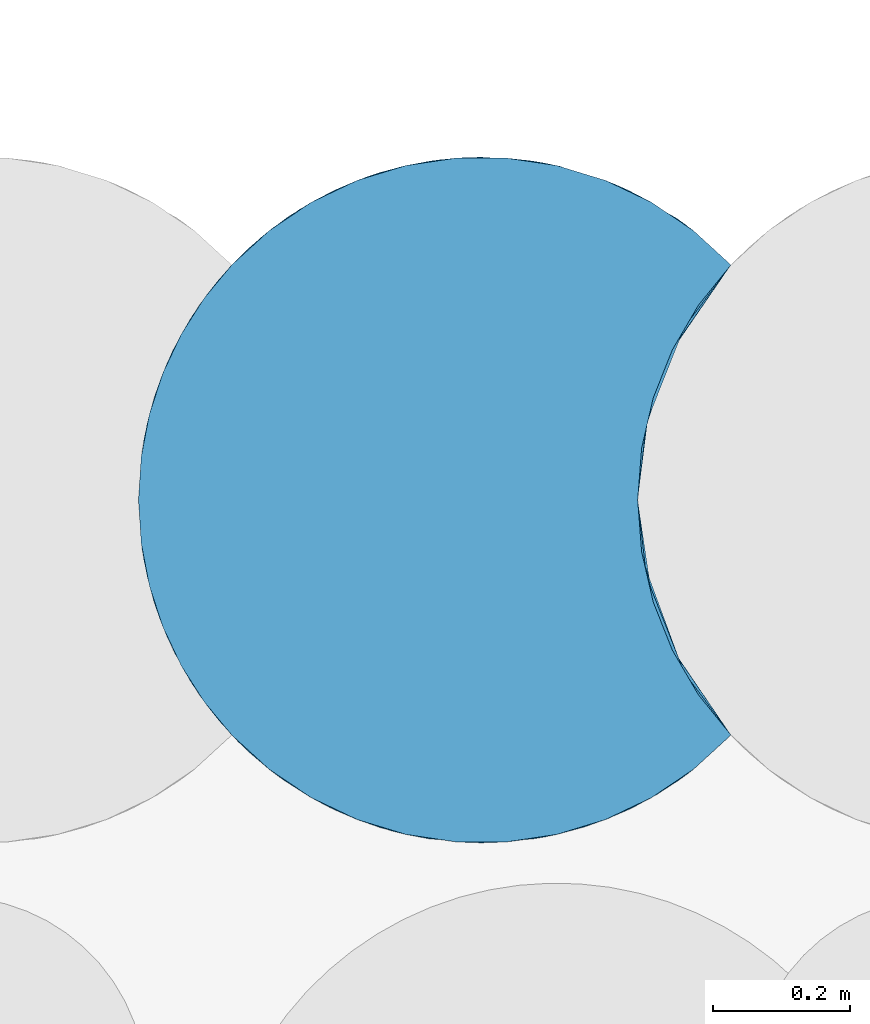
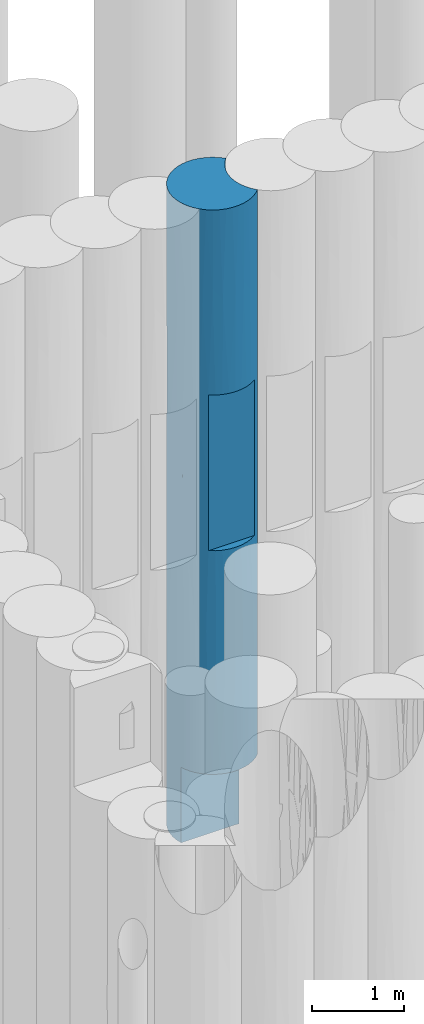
# One storey, part 64 of 104: 1 pile.
"""IFC2X3 building model written with IfcOpenShell, lengths in millimetres."""

from ifc_helpers import new_model, entity, si_unit, converted_unit, derived_unit, direction, frame, origin, place, context, subcontext, project, spatial, faceted_brep, source, transform, mapped, material, element, save


model = new_model("IFC2X3")

# Units and contexts
model_context = context("Model", 3, precision=0.01, world=origin(), true_north=direction((6.12303176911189e-17, 1.0)))
body_context = subcontext(model_context, "Body", "Model", "MODEL_VIEW")
ifc_project = project(units=[si_unit("LENGTHUNIT", "METRE", prefix="MILLI"), si_unit("AREAUNIT", "SQUARE_METRE", prefix="MILLI"), si_unit("VOLUMEUNIT", "CUBIC_METRE"), converted_unit("PLANEANGLEUNIT", "DEGREE", entity("IfcRatioMeasure", 0.0174532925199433), si_unit("PLANEANGLEUNIT", "RADIAN"), dimensions=[0, 0, 0, 0, 0, 0, 0]), si_unit("MASSUNIT", "GRAM", prefix="KILO"), derived_unit("MASSDENSITYUNIT", [(si_unit("MASSUNIT", "GRAM", prefix="KILO"), 1), (si_unit("LENGTHUNIT", "METRE"), -3)]), derived_unit("MOMENTOFINERTIAUNIT", [(si_unit("LENGTHUNIT", "METRE"), 4)]), si_unit("TIMEUNIT", "SECOND"), si_unit("FREQUENCYUNIT", "HERTZ"), si_unit("THERMODYNAMICTEMPERATUREUNIT", "DEGREE_CELSIUS"), derived_unit("THERMALTRANSMITTANCEUNIT", [(si_unit("MASSUNIT", "GRAM", prefix="KILO"), 1), (si_unit("THERMODYNAMICTEMPERATUREUNIT", "KELVIN"), -1), (si_unit("TIMEUNIT", "SECOND"), -3)]), derived_unit("VOLUMETRICFLOWRATEUNIT", [(si_unit("LENGTHUNIT", "METRE"), 3), (si_unit("TIMEUNIT", "SECOND"), -1)]), si_unit("ELECTRICCURRENTUNIT", "AMPERE"), si_unit("ELECTRICVOLTAGEUNIT", "VOLT"), si_unit("POWERUNIT", "WATT"), si_unit("FORCEUNIT", "NEWTON", prefix="KILO"), si_unit("ILLUMINANCEUNIT", "LUX"), si_unit("LUMINOUSFLUXUNIT", "LUMEN"), si_unit("LUMINOUSINTENSITYUNIT", "CANDELA"), derived_unit("USERDEFINED", [(si_unit("MASSUNIT", "GRAM", prefix="KILO"), -1), (si_unit("LENGTHUNIT", "METRE"), -2), (si_unit("TIMEUNIT", "SECOND"), 3), (si_unit("LUMINOUSFLUXUNIT", "LUMEN"), 1)]), derived_unit("LINEARVELOCITYUNIT", [(si_unit("LENGTHUNIT", "METRE"), 1), (si_unit("TIMEUNIT", "SECOND"), -1)]), si_unit("PRESSUREUNIT", "PASCAL"), derived_unit("USERDEFINED", [(si_unit("LENGTHUNIT", "METRE"), -2), (si_unit("MASSUNIT", "GRAM", prefix="KILO"), 1), (si_unit("TIMEUNIT", "SECOND"), -2)]), derived_unit("LINEARFORCEUNIT", [(si_unit("MASSUNIT", "GRAM", prefix="KILO"), 1), (si_unit("LENGTHUNIT", "METRE"), 1), (si_unit("TIMEUNIT", "SECOND"), -2), (si_unit("LENGTHUNIT", "METRE"), -1)]), derived_unit("PLANARFORCEUNIT", [(si_unit("MASSUNIT", "GRAM", prefix="KILO"), 1), (si_unit("LENGTHUNIT", "METRE"), 1), (si_unit("TIMEUNIT", "SECOND"), -2), (si_unit("LENGTHUNIT", "METRE"), -2)])], contexts=[model_context])

# Site, building, storey
site_placement = place(None, origin())
site = spatial("IfcSite", under=ifc_project, at=site_placement, Name="Theater aan de Parade", CompositionType="ELEMENT")
building_placement = place(site_placement, origin())
building = spatial("IfcBuilding", under=site, at=building_placement, Name="Theater aan de Parade", CompositionType="ELEMENT")
storey_placement = place(building_placement, frame((0.0, 0.0, -5520.0)))
storey = spatial("IfcBuildingStorey", under=building, at=storey_placement, Name="-2 kelder", CompositionType="ELEMENT", Elevation=-5520.0)

# Pile
ifc_material = material(Name="00_PBT_MAT_grout")
shared_shape = source(origin(), body_context, "Body", "Brep", [
    faceted_brep([(464.560582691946, 1000.22181762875, 0.0), (538.616668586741, 1000.22280478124, 0.0), (611.860911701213, 989.28522369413, 0.0), (682.68673439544, 967.648790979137, 0.0), (749.540520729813, 935.787802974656, 0.0), (810.955686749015, 894.400737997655, 0.0), (865.595272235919, 844.383836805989, 0.0), (818.150067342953, 785.695330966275, 0.0), (780.078223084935, 720.534584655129, 0.0), (752.247075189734, 650.386060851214, 0.0), (735.290660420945, 576.847851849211, 0.0), (729.595272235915, 501.595272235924, 0.0), (734.989632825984, 428.347327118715, 0.0), (751.055970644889, 356.681032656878, 0.0), (23.0559706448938, 356.681032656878, 0.0), (6.98989759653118, 428.345539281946, 0.0), (1.5952722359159, 501.595272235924, 0.0), (5.55623942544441, 564.406719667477, 0.0), (17.3678310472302, 626.189755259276, 0.0), (36.8430214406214, 686.000655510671, 0.0), (63.6725852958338, 742.891190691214, 0.0), (97.43467590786, 795.966147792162, 0.0), (137.5957946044, 844.383899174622, 0.0), (192.227350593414, 894.394825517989, 0.0), (253.640398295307, 935.782306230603, 0.0), (320.492432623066, 967.644369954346, 0.0), (391.316996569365, 989.282366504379, 0.0), (865.595272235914, 844.383836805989, 1561.53747312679), (789.40132134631, 910.456713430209, 1491.00548248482), (799.657477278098, 903.041310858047, 2504.88210618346), (26.1639417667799, 656.401764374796, 1423.71039154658), (50.5548382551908, 717.378790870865, 815.522482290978), (716.704326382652, 952.957759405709, 974.743749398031), (575.441567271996, 996.111929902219, 1365.35911550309), (789.401320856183, 910.456713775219, 6978.99451100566), (810.955686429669, 894.400738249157, 8470.0), (865.595272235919, 844.38383680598, 6908.46252687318), (790.879670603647, 909.412065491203, 5813.0119179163), (865.595272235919, 844.38383680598, 5571.73262795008), (865.595272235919, 844.38383680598, 5346.9250537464), (538.616668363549, 1000.22280479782, 8470.0), (611.860911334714, 989.285223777, 8470.0), (575.441567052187, 996.111929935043, 7150.26699538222), (36.7297114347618, 685.714826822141, 2307.6264185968), (64.0996250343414, 743.664598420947, 1628.37591838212), (222.16655921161, 916.227150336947, 956.748364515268), (355.503556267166, 979.776420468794, 1427.16858692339), (501.588606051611, 1001.59527219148, 2596.73325583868), (463.496981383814, 1000.14167953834, 1072.24580175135), (865.595272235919, 844.38383680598, 8470.0), (222.16655893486, 916.227150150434, 1972.3001271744), (217.544033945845, 913.074183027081, 3221.63866937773), (333.161300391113, 972.371224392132, 2861.22474137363), (286.475705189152, 952.952749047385, 7480.6370418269), (192.227350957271, 894.394825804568, 8470.0), (253.64039867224, 935.78230644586, 8470.0), (100.736484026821, 800.446793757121, 6793.03274327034), (163.989554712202, 870.407391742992, 7127.47212773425), (196.918801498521, 898.044825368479, 6218.94986965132), (785.426204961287, 913.226176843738, 4790.96227754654), (79.7575221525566, 770.022008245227, 7621.93766369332), (63.6725852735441, 742.891190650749, 8470.0), (97.4346759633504, 795.966147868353, 8470.0), (692.57972044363, 963.682861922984, 4235.0), (794.511313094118, 906.811502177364, 3679.03770634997), (116.757578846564, 820.812987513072, 1364.08942331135), (716.704325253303, 952.957759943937, 6462.73277506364), (716.704325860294, 952.957759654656, 7495.25624707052), (716.70432577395, 952.957759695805, 2007.26721704), (36.8430215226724, 686.000655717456, 8470.0), (464.560582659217, 1000.22181762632, 8470.0), (682.686733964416, 967.648791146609, 8470.0), (749.540520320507, 935.787803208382, 8470.0), (1.59527223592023, 501.595272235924, 1058.74569867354), (1.59527223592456, 501.595272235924, 1561.53750746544), (286.475704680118, 952.952748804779, 4235.0), (286.475704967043, 952.952748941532, 6434.30301971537), (236.846141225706, 925.750783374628, 5334.65151001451), (13.5254225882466, 610.167008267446, 7372.75274235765), (17.3678311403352, 626.189755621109, 8470.0), (150.377453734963, 857.468907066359, 2562.8963121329), (79.7181549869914, 769.960131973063, 2632.86902156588), (49.3623188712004, 714.868233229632, 6938.4401910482), (712.525517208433, 954.925650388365, 3129.72297922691), (501.588606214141, 1001.59527219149, 5873.2667373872), (569.755285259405, 996.927698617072, 4755.12996065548), (476.322275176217, 1000.95613936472, 5007.14730889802), (391.316996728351, 989.28236654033, 8470.0), (427.735977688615, 996.109988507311, 7104.64110728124), (9.23358182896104, 588.658271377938, 2342.30656064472), (116.757578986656, 820.812987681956, 5893.9017401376), (33.0262183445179, 676.074616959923, 5347.10350774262), (137.605579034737, 844.3947810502, 8470.0), (438.381630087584, 997.583211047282, 3963.78240309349), (320.492432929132, 967.644370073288, 8470.0), (43.0784257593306, 701.000140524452, 4473.88274990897), (11.2142039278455, 599.198591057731, 4667.65803343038), (1.59527223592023, 501.595272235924, 8470.0), (5.55623942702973, 564.406719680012, 8470.0), (9.51542927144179, 590.237407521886, 5495.65544289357), (116.18581531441, 820.12243044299, 3373.18426703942), (182.118134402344, 886.217630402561, 4288.45203817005), (591.824887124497, 993.386504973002, 3489.10403538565), (18.4305593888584, 630.249305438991, 6406.00282362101), (1.59527223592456, 501.595272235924, 2117.50286755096), (1.5952722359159, 501.595272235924, 3123.07501493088), (616.099631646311, 988.30745790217, 2440.53317146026), (386.192771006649, 988.095285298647, 6175.64873710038), (381.519799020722, 986.963051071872, 5169.51578005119), (613.759023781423, 988.852178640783, 6106.01087867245), (692.700363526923, 963.6329807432, 5361.94747271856), (75.4806634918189, 763.179561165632, 5112.43896971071), (135.725798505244, 842.387772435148, 5005.62909266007), (62.9697281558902, 741.611171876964, 3455.71179201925), (97.3058699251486, 795.789220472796, 4263.74923889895), (26.3526093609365, 656.979992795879, 3676.29325435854), (1.59527223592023, 501.595272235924, 3176.26003642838), (1.59527223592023, 501.595272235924, 4234.99353122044), (865.595272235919, 844.383836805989, 3123.07563757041), (865.595272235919, 844.38383680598, 2898.26737204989), (865.595272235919, 844.383836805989, 4235.00069131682), (1.5952722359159, 501.595272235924, 5346.92498506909), (1.59527223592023, 501.595272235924, 5571.74329494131), (1.59527223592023, 501.595272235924, 6908.46249253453), (9.64635078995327, 412.229402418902, 1740.22189428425), (142.565506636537, 153.604428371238, 5505.0), (213.720794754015, 92.7820077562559, 4990.0), (213.720794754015, 92.7820077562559, 6020.0), (105.373424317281, 196.6227370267, 4545.3992964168), (23.0559706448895, 356.681032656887, 1000.0), (118.439637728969, 180.360529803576, 2386.19848820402), (32.2090199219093, 329.326452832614, 2204.61529178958), (68.8651327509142, 251.106497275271, 1000.0), (42.9242829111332, 302.545219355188, 1000.0), (789.469749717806, 92.7820077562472, 3960.0), (865.59527223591, 158.806707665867, 2867.49999999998), (865.59527223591, 158.806707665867, 3648.26124899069), (865.595272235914, 158.806707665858, 3801.24999999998), (865.595272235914, 158.806707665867, 4735.0), (865.595272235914, 158.806707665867, 5668.74999999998), (865.59527223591, 158.806707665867, 5821.73875100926), (865.595272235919, 158.806707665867, 6602.49999999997), (789.469749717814, 92.7820077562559, 6020.0), (789.46974971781, 92.7820077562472, 4990.0), (8.81751859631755, 416.918914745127, 2646.87500001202), (286.466151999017, 50.2423486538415, 2461.24897887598), (193.922353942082, 107.466644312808, 2892.94714577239), (210.051202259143, 95.3908221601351, 1944.41924411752), (163.989554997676, 132.783152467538, 7198.38299068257), (79.7181554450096, 233.230411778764, 6604.44114999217), (148.07219095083, 148.011574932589, 6362.25527219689), (31.1680313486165, 332.18980883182, 6056.32490962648), (75.690496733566, 239.669477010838, 5519.99565303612), (253.629698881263, 67.4143486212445, 1000.0), (320.484188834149, 35.5493780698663, 1000.0), (55.1532507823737, 276.451936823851, 3318.42122771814), (757.302459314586, 71.9281516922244, 3141.67756733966), (789.630291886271, 92.8951040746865, 2324.13442625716), (391.312227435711, 13.9092564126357, 1000.0), (370.182009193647, 19.1737197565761, 1947.89605695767), (279.55854294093, 53.6000815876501, 3960.0), (391.331294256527, 13.9049451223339, 2895.75417679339), (100.558387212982, 202.982786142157, 1000.0), (137.595272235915, 158.806707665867, 1000.0), (464.559880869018, 2.96877897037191, 1000.0), (501.5899885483, 1.59527226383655, 2460.40757830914), (29.9326481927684, 335.660438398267, 4903.36557309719), (121.469006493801, 176.781445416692, 3478.13394909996), (26.1639420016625, 346.788779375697, 7201.03028685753), (5.55623942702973, 438.783824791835, 8470.0), (79.7181554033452, 233.230411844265, 7559.63491729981), (63.6725852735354, 260.299353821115, 8470.0), (36.8430215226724, 317.189888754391, 8470.0), (810.967462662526, 108.799081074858, 1000.0), (865.59527223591, 158.806707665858, 1000.0), (865.59527223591, 158.806707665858, 1780.76885310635), (17.3678311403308, 377.000788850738, 8470.0), (137.605579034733, 158.795763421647, 8470.0), (865.595272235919, 158.806707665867, 7689.2311468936), (865.595272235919, 158.806707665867, 8470.0), (810.955686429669, 108.78980622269, 8470.0), (253.008900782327, 67.7694823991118, 7429.16293872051), (279.558542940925, 53.6000815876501, 6020.0), (749.552165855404, 67.40939164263, 1000.0), (192.227350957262, 108.795718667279, 8470.0), (192.215508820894, 108.80504579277, 1000.0), (355.503557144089, 23.4141237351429, 7268.21560542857), (14.4149384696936, 389.099395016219, 3705.62500005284), (320.492432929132, 35.5461743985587, 8470.0), (391.316996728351, 13.9081779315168, 8470.0), (350.609564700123, 24.9367822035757, 6020.0), (501.595272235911, 1.59527223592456, 3960.0), (425.205629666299, 7.4651046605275, 3960.0), (538.620125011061, 2.96799633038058, 1000.0), (611.868102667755, 13.9069466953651, 1000.0), (595.054059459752, 10.4074720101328, 1977.18955440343), (682.696772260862, 35.5456539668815, 1000.0), (688.656307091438, 37.9055384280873, 2500.38408566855), (97.4346759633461, 207.224396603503, 8470.0), (682.68673396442, 35.5417533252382, 8470.0), (611.86091133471, 13.9053206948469, 8470.0), (611.870435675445, 13.9074742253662, 7434.8346582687), (595.688957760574, 10.5287000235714, 2967.0230474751), (577.984914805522, 7.4651046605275, 3960.0), (749.540520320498, 67.4027412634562, 8470.0), (716.704326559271, 50.2327851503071, 7267.64689878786), (803.386835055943, 102.945234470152, 7145.86557351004), (577.984914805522, 7.4651046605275, 6020.0), (501.58860727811, 1.5952722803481, 7268.66818084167), (501.595272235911, 1.59527223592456, 6020.0), (723.632001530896, 53.6000815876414, 6020.0), (865.59527223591, 158.806707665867, 2561.55296017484), (652.580979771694, 24.9367822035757, 3960.0), (723.632001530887, 53.6000815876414, 3960.0), (213.720794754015, 92.7820077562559, 3960.0), (253.640398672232, 67.4082380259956, 8470.0), (425.205629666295, 7.4651046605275, 6020.0), (464.560582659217, 2.96872684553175, 8470.0), (652.580979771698, 24.9367822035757, 6020.0), (538.61666836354, 2.96773967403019, 8470.0), (865.595272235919, 158.806707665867, 6908.47750201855), (350.609564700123, 24.9367822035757, 3960.0), (818.150067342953, 217.495213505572, 8470.0), (780.07822308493, 282.655959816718, 8470.0), (752.247075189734, 352.804483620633, 8470.0), (735.290660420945, 426.342692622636, 8470.0), (729.595272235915, 501.595272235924, 8470.0), (735.290660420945, 576.847851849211, 8470.0), (752.247075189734, 650.386060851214, 8470.0), (780.078223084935, 720.534584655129, 8470.0), (818.150067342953, 785.695330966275, 8470.0), (742.379444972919, 613.937328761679, 959.062888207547), (738.151011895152, 593.695972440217, 6638.44327873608), (742.379444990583, 613.937328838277, 7510.9371104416), (729.595272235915, 501.595272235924, 6908.4597613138), (808.681716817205, 771.468907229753, 6638.44327726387), (781.985001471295, 724.406953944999, 5169.28730842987), (797.883005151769, 753.834282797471, 959.062888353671), (764.837270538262, 685.986160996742, 1706.36651512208), (797.883005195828, 753.834282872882, 7510.93711014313), (729.595272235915, 501.595272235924, 1561.54023868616), (729.595272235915, 501.595272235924, 1058.75298998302), (808.681716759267, 771.468907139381, 1831.55672113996), (778.799150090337, 717.888721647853, 2630.65322090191), (766.296890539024, 689.623486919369, 3566.63442778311), (739.967026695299, 602.907567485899, 2500.19182196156), (729.595272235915, 501.595272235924, 3123.08047737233), (729.595272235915, 501.595272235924, 2117.50597996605), (764.837270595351, 685.986161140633, 6763.63348211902), (798.309538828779, 754.56289103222, 4260.62631723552), (810.907944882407, 774.909966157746, 3324.34692372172), (745.175048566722, 625.438103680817, 5612.66192558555), (744.930852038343, 624.478956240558, 4544.29323307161), (738.502483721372, 595.552033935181, 3413.30504808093), (729.595272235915, 501.595272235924, 4235.01242423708), (729.595272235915, 501.595272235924, 5571.72573206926), (729.595272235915, 501.595272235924, 5346.93194686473), (729.595272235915, 501.595272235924, 3176.24701001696), (737.652631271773, 412.194835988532, 1740.61215192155), (796.863622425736, 251.109106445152, 1977.49082641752), (808.103941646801, 232.6249053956, 2870.31406883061), (817.383474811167, 218.608639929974, 1000.0), (751.055970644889, 356.681032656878, 1000.0), (797.883005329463, 249.356261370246, 7510.93711074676), (762.458274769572, 323.317327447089, 4903.36557316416), (741.179889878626, 394.588663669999, 5988.20523574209), (778.685121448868, 285.53964070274, 5822.23176538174), (742.379445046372, 389.253215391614, 7510.93711054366), (764.837270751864, 317.204382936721, 6763.63348277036), (808.681717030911, 231.721636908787, 6638.44327929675), (736.645152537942, 417.928196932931, 2646.87500001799), (763.601591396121, 320.349887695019, 2739.79071288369), (778.900945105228, 285.089790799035, 1000.0), (736.819640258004, 416.906568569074, 5098.32805872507), (739.996017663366, 400.142968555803, 3705.62500000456), (776.673795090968, 289.788436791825, 3825.90126919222), (807.285378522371, 233.911963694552, 5061.92209300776)], [[[0, 1, 2, 3, 4, 5, 6, 7, 8, 9, 10, 11, 12, 13, 14, 15, 16, 17, 18, 19, 20, 21, 22, 23, 24, 25, 26]], [[27, 28, 29]], [[18, 30, 31]], [[4, 3, 32]], [[32, 2, 33]], [[34, 35, 36]], [[37, 36, 38, 39]], [[40, 41, 42]], [[30, 43, 44]], [[45, 46, 25]], [[47, 33, 48]], [[6, 5, 27]], [[35, 49, 36]], [[1, 48, 33]], [[26, 46, 48]], [[50, 51, 52]], [[53, 54, 55]], [[56, 57, 58]], [[39, 59, 37]], [[28, 5, 32]], [[60, 61, 62]], [[63, 59, 64]], [[25, 46, 26]], [[45, 22, 65]], [[24, 23, 45]], [[66, 67, 34]], [[28, 32, 68]], [[25, 24, 45]], [[69, 61, 60]], [[70, 40, 42]], [[67, 71, 72]], [[0, 48, 1]], [[42, 41, 67]], [[17, 16, 73, 74]], [[52, 51, 75]], [[58, 76, 77]], [[31, 21, 20]], [[69, 78, 79]], [[1, 33, 2]], [[65, 50, 45]], [[31, 19, 18]], [[80, 65, 81]], [[78, 69, 82]], [[64, 29, 83]], [[17, 74, 30]], [[84, 85, 86]], [[53, 87, 88]], [[30, 74, 89]], [[30, 18, 17]], [[42, 84, 88]], [[82, 90, 91]], [[57, 60, 92]], [[4, 32, 5]], [[88, 87, 70]], [[52, 93, 47]], [[94, 53, 55]], [[95, 96, 91]], [[42, 88, 70]], [[97, 98, 78]], [[54, 53, 57]], [[92, 54, 57]], [[91, 96, 99]], [[51, 100, 101]], [[102, 63, 83]], [[57, 56, 60]], [[44, 31, 30]], [[99, 103, 91]], [[78, 98, 79]], [[50, 52, 46]], [[65, 22, 21]], [[89, 74, 104, 105]], [[75, 101, 77]], [[106, 33, 47]], [[33, 68, 32]], [[42, 67, 66]], [[107, 84, 108]], [[88, 76, 53]], [[67, 41, 71]], [[109, 42, 66]], [[53, 94, 87]], [[57, 53, 76]], [[32, 3, 2]], [[45, 23, 22]], [[46, 45, 50]], [[67, 72, 35]], [[106, 83, 68]], [[110, 66, 37]], [[111, 90, 112]], [[95, 91, 111]], [[51, 101, 75]], [[100, 113, 114]], [[93, 52, 75]], [[47, 46, 52]], [[108, 93, 75]], [[102, 85, 63]], [[89, 43, 30]], [[115, 105, 116, 117]], [[29, 28, 68]], [[5, 28, 27]], [[83, 29, 68]], [[29, 118, 119, 27]], [[102, 106, 47]], [[59, 39, 120]], [[47, 93, 102]], [[108, 86, 93]], [[93, 85, 102]], [[110, 109, 66]], [[59, 120, 64]], [[118, 64, 120]], [[59, 63, 110]], [[63, 85, 110]], [[109, 85, 84]], [[85, 109, 110]], [[42, 109, 84]], [[29, 64, 118]], [[64, 83, 63]], [[110, 37, 59]], [[37, 66, 34]], [[35, 34, 67]], [[37, 34, 36]], [[77, 108, 75]], [[88, 107, 76]], [[83, 106, 102]], [[33, 106, 68]], [[80, 51, 50]], [[80, 100, 51]], [[114, 112, 101]], [[57, 76, 58]], [[77, 101, 112]], [[108, 77, 76]], [[65, 80, 50]], [[100, 80, 81]], [[113, 100, 81]], [[101, 100, 114]], [[43, 113, 81]], [[113, 115, 95]], [[111, 112, 114]], [[112, 90, 58]], [[114, 113, 95]], [[90, 111, 91]], [[114, 95, 111]], [[117, 96, 115]], [[99, 96, 121]], [[115, 96, 95]], [[121, 96, 117]], [[99, 121, 122, 123]], [[123, 78, 103]], [[112, 58, 77]], [[56, 58, 90]], [[103, 78, 82]], [[78, 123, 97]], [[91, 103, 82]], [[123, 103, 99]], [[105, 115, 89]], [[115, 113, 43]], [[115, 43, 89]], [[44, 81, 65]], [[81, 44, 43]], [[65, 21, 31]], [[65, 31, 44]], [[19, 31, 20]], [[90, 82, 56]], [[60, 56, 82]], [[60, 82, 69]], [[60, 62, 92]], [[26, 48, 0]], [[47, 48, 46]], [[93, 86, 85]], [[108, 84, 86]], [[84, 107, 88]], [[108, 76, 107]], [[124, 104, 74, 73]], [[125, 126, 127]], [[126, 125, 128]], [[129, 15, 14]], [[130, 131, 132]], [[129, 133, 131]], [[134, 135, 136, 137, 138, 139, 140, 141, 142, 143]], [[144, 116, 105, 104]], [[132, 131, 133]], [[129, 124, 73]], [[145, 146, 147]], [[148, 149, 150]], [[149, 151, 152]], [[145, 153, 154]], [[131, 130, 155]], [[135, 156, 157]], [[154, 158, 159]], [[153, 145, 147]], [[160, 145, 161]], [[130, 162, 163]], [[164, 165, 159]], [[122, 166, 151]], [[160, 146, 145]], [[130, 167, 155]], [[123, 168, 169]], [[148, 170, 149]], [[170, 171, 172]], [[173, 174, 175]], [[176, 168, 172]], [[123, 122, 151]], [[170, 172, 168]], [[170, 148, 177]], [[178, 179, 180]], [[181, 127, 182]], [[183, 173, 157]], [[128, 166, 155]], [[184, 177, 148]], [[147, 163, 185]], [[181, 182, 186]], [[187, 166, 117]], [[181, 184, 148]], [[188, 186, 189]], [[186, 188, 181]], [[186, 182, 190]], [[187, 116, 144]], [[131, 144, 124]], [[168, 149, 170]], [[169, 97, 123]], [[168, 151, 149]], [[161, 191, 192]], [[150, 125, 127]], [[165, 164, 193]], [[166, 122, 121, 117]], [[193, 194, 195]], [[195, 196, 197]], [[170, 177, 198]], [[165, 161, 159]], [[199, 200, 201]], [[191, 161, 165]], [[191, 165, 202]], [[127, 148, 150]], [[191, 202, 203]], [[187, 117, 116]], [[204, 205, 206]], [[207, 208, 209]], [[206, 210, 142]], [[157, 175, 211, 135]], [[197, 156, 212]], [[202, 195, 197]], [[130, 146, 167]], [[173, 175, 157]], [[213, 156, 134]], [[146, 160, 214]], [[180, 204, 206]], [[188, 215, 181]], [[183, 197, 196]], [[130, 132, 162]], [[216, 186, 190]], [[208, 217, 189]], [[218, 205, 201]], [[186, 216, 208]], [[156, 135, 134]], [[208, 189, 186]], [[212, 156, 213]], [[217, 208, 219]], [[219, 208, 201]], [[183, 157, 197]], [[218, 201, 207]], [[208, 216, 209]], [[212, 203, 202]], [[169, 168, 176]], [[144, 155, 187]], [[210, 205, 218]], [[128, 214, 126]], [[199, 205, 204]], [[151, 168, 123]], [[206, 142, 141]], [[206, 141, 220, 178]], [[152, 125, 150]], [[219, 201, 200]], [[198, 171, 170]], [[197, 157, 156]], [[152, 166, 128]], [[161, 221, 160]], [[166, 152, 151]], [[166, 187, 155]], [[128, 125, 152]], [[124, 144, 104]], [[144, 131, 155]], [[15, 129, 73]], [[131, 124, 129]], [[180, 206, 178]], [[16, 15, 73]], [[206, 205, 210]], [[152, 150, 149]], [[167, 214, 128]], [[130, 163, 147]], [[214, 167, 146]], [[155, 167, 128]], [[130, 147, 146]], [[153, 147, 185]], [[221, 161, 192]], [[159, 161, 145]], [[154, 159, 145]], [[159, 158, 164]], [[195, 202, 165]], [[212, 202, 197]], [[193, 195, 165]], [[195, 194, 196]], [[184, 181, 215]], [[181, 148, 127]], [[207, 201, 208]], [[199, 201, 205]], [[72, 71, 41, 40, 70, 87, 94, 55, 54, 92, 62, 61, 69, 79, 98, 97, 169, 176, 172, 171, 198, 177, 184, 215, 188, 189, 217, 219, 200, 199, 204, 180, 179, 222, 223, 224, 225, 226, 227, 228, 229, 230, 49, 35]], [[209, 216, 190, 182, 127, 142, 210, 218, 207]], [[214, 134, 143, 142, 127, 126]], [[160, 221, 192, 191, 203, 212, 213, 134, 214]], [[10, 9, 231]], [[232, 233, 234]], [[38, 235, 236]], [[231, 237, 238]], [[6, 237, 7]], [[231, 9, 237]], [[239, 36, 49]], [[27, 237, 6]], [[231, 240, 241, 11]], [[234, 233, 226]], [[227, 226, 233]], [[238, 237, 242]], [[243, 244, 245]], [[245, 246, 247, 240]], [[230, 229, 239]], [[233, 248, 239]], [[243, 242, 119]], [[249, 244, 250]], [[233, 239, 229, 228]], [[228, 227, 233]], [[8, 7, 237]], [[251, 252, 236]], [[237, 9, 8]], [[10, 231, 11]], [[240, 231, 245]], [[248, 233, 232]], [[230, 239, 49]], [[36, 239, 235]], [[119, 250, 243]], [[242, 237, 27]], [[253, 245, 244]], [[252, 253, 244]], [[239, 248, 235]], [[238, 242, 243]], [[242, 27, 119]], [[238, 243, 245]], [[250, 244, 243]], [[231, 238, 245]], [[253, 246, 245]], [[249, 252, 244]], [[250, 119, 118, 120]], [[252, 254, 253]], [[249, 250, 120]], [[236, 248, 251]], [[232, 234, 255, 256]], [[249, 120, 39, 38]], [[235, 248, 236]], [[38, 36, 235]], [[38, 236, 249]], [[249, 236, 252]], [[232, 256, 251]], [[252, 251, 256]], [[232, 251, 248]], [[253, 254, 257, 246]], [[252, 256, 254]], [[258, 241, 240, 247]], [[211, 259, 260]], [[261, 259, 174]], [[13, 12, 262]], [[222, 179, 263]], [[258, 262, 241]], [[264, 265, 266]], [[267, 234, 226]], [[225, 224, 267]], [[268, 263, 269]], [[270, 271, 258]], [[261, 272, 259]], [[258, 271, 259]], [[223, 263, 267, 224]], [[259, 211, 175, 174]], [[263, 268, 267]], [[270, 247, 246, 257]], [[262, 259, 272]], [[260, 259, 271]], [[265, 264, 273]], [[254, 274, 257]], [[269, 263, 220]], [[223, 222, 263]], [[263, 179, 178, 220]], [[225, 267, 226]], [[234, 267, 265]], [[265, 255, 234]], [[271, 275, 260]], [[268, 266, 265]], [[275, 138, 137, 136]], [[275, 276, 138]], [[275, 136, 260]], [[275, 271, 274]], [[260, 136, 135, 211]], [[274, 273, 264]], [[270, 257, 274]], [[275, 274, 264]], [[247, 270, 258]], [[271, 270, 274]], [[241, 262, 12]], [[259, 262, 258]], [[268, 269, 266]], [[241, 12, 11]], [[266, 269, 140]], [[266, 140, 276]], [[269, 220, 141, 140]], [[276, 264, 266]], [[267, 268, 265]], [[273, 255, 265]], [[264, 276, 275]], [[276, 140, 139, 138]], [[273, 254, 256, 255]], [[254, 273, 274]], [[133, 129, 262, 272, 261, 174, 173, 183, 196, 194, 193, 164, 158, 154, 153, 185, 163, 162, 132]], [[262, 129, 14, 13]]]),
])
pile_placement = place(storey_placement, frame((37792.2628578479, 43807.2179922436, -3840.0)))
element("IfcPile", 1, at=pile_placement, inside=storey, material=ifc_material, Name="17_PBT_SFO_grondkering_rond:Ø1000 (grondkering)", ObjectType="17_PBT_SFO_grondkering_rond:Ø1000 (grondkering)", PredefinedType="NOTDEFINED", context=body_context, shape_type="MappedRepresentation", body=[
    mapped(shared_shape, transform((0.0, 0.0, 0.0), scale=1.0)),
])

save(model, "model.ifc")
